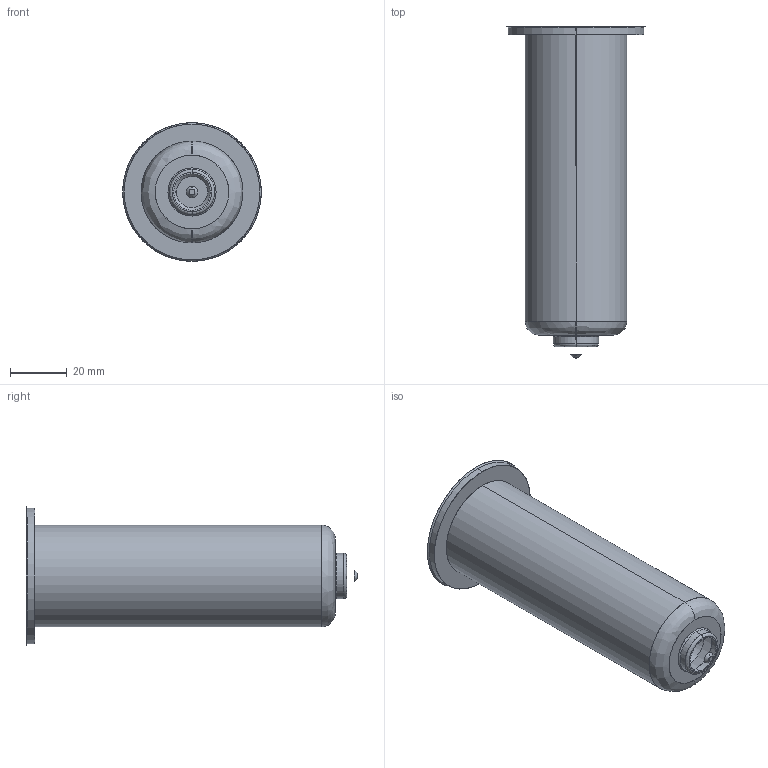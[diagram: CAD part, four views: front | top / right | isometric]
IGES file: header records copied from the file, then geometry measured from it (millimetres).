
Start section: SolidWorks IGES file using analytic representation for surfaces
Global section: file name: C:\Documents and Settings\ws-20\Desktop\TEM\Sede UGEP5003-M-A C-114 L-134 Ød-2.0.IGS; native system: SolidWorks 2012; preprocessor: SolidWorks 2012; author: ws-20; date: 120426.142425; units: millimetre
Bounding box: 49 x 117.29 x 49 mm (x, y, z)
Surface area: 16235.2 mm2 (no closed solid volume)
Topology: 0 solids, 0 shells, 25 faces, 436 edges, 436 vertices
Faces by surface type: revolution 16, bspline 9
